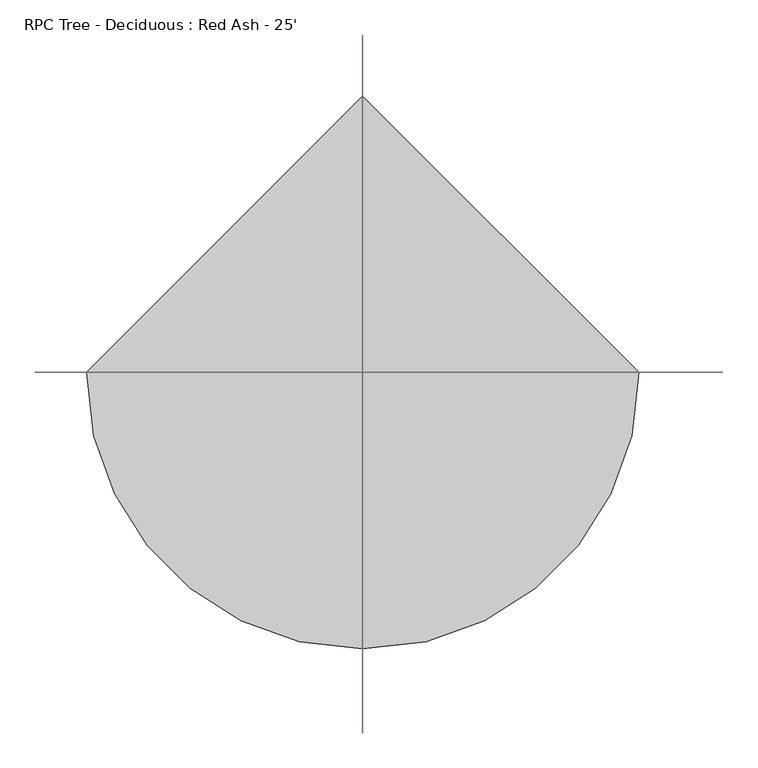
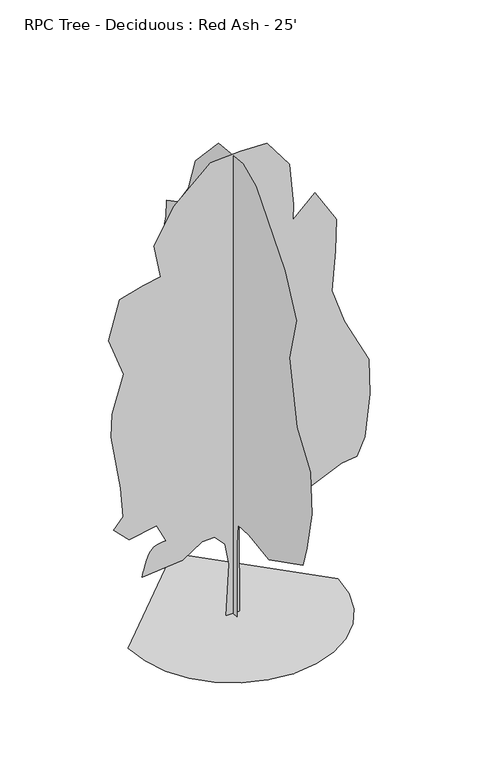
"""IFC4 building model written with IfcOpenShell, lengths in millimetres: geographic element geometry, RPC Tree - Deciduous : Red Ash - 25'."""

from ifc_helpers import new_model, si_unit, origin, place, context, project, spatial, triangles, source, transform, mapped, element, save


def rpc_tree_deciduous_red_ash_25_14781bec(model_context):
    return source(origin(), model_context, "Body", "Tessellation", [
        triangles([(-1644.9525009, 0.0, 6.19e-05), (-1601.4651844, -376.9143482, 6.19e-05), (-1477.6144592, -723.0498339, 6.19e-05), (-1283.3164352, -1028.4894024, 6.19e-05), (-1028.4894751, -1283.3165806, 6.19e-05), (-723.0496885, -1477.6140232, 6.19e-05), (-376.9141665, -1601.4651844, 6.19e-05), (7.19e-05, -1644.9525009, 6.19e-05), (376.9143846, -1601.4651844, 6.19e-05), (723.0499065, -1477.6143139, 6.19e-05), (1028.4894751, -1283.3164352, 6.19e-05), (1283.3168713, -1028.4894751, 6.19e-05), (1477.6141685, -723.0496159, 6.19e-05), (1601.4651844, -376.9140939, 6.19e-05), (1644.9525009, 0.0001438, 6.19e-05), (-0.0002157, 1644.9525009, 6.19e-05), (-1.07e-05, -102.8462569, 0.0), (2.5e-05, -101.2467179, 1194.554048), (3.23e-05, -129.8819613, 1537.8029366), (7e-07, -438.8253948, 1558.1655018), (-5.78e-05, -976.3912743, 1478.3068588), (-0.0001405, -1903.692667, 1948.6771305), (-0.0001413, -2011.2060173, 2298.095192), (-0.0001361, -2145.5975235, 2943.1744217), (-0.0001119, -2105.2803623, 3615.1319527), (-5.81e-05, -1740.3819958, 4141.0172951), (-5.5e-06, -1527.3986298, 5160.6350006), (-3.5e-06, -1715.5451397, 5886.3488434), (4.79e-05, -1406.4449661, 6531.4286545), (0.0001569, -626.9743755, 7458.7301926), (0.0001985, -273.2007115, 7618.1942963), (0.0002662, 394.4016166, 7552.8046829), (0.0003121, 1026.0418774, 6880.8468613), (0.0003149, 1214.190204, 6316.4022446), (0.0003323, 1496.411277, 5913.2274353), (0.0003598, 1805.5131947, 5751.9582092), (0.0003531, 1818.9521999, 5483.1746155), (0.0003523, 1899.587249, 5174.0742966), (0.0003275, 1765.1957428, 4811.2170845), (0.0003297, 1886.1480984, 4461.7991684), (0.0003279, 2007.1004539, 3977.9897461), (0.0003211, 1980.222298, 3843.5979492), (0.0002877, 1751.7567375, 3521.0580437), (0.0002729, 1737.3115437, 3077.5662186), (0.0002632, 1724.8782909, 2795.3439102), (0.0002542, 1738.3174416, 2445.9262848), (0.0002412, 1751.7568829, 1962.1167171), (0.0002172, 1563.6084835, 1814.2857697), (0.0001807, 1214.1907127, 1814.2857697), (0.0001827, 1375.4605202, 1317.0371967), (0.0001715, 1348.4951603, 1034.8845062), (0.0001516, 1103.0310734, 1227.8363914), (9.86e-05, 629.4626684, 1106.7075932), (9.8e-05, 551.7118183, 1357.0609165), (6.29e-05, 215.9127657, 1354.0025276), (5.03e-05, 130.8012366, 1228.3346169), (3.27e-05, 79.5493323, 818.2831198), (1.17e-05, 112.1660096, 1.28e-05), (-110.870867, 4.8e-06, 4.46e-05), (-66.7114758, -9.64e-05, 833.5016676), (-129.3072962, -0.000136, 1187.9435503), (-290.7878647, -0.00015, 1365.31768), (-483.6364677, -0.0001408, 1358.6964272), (-796.2678211, -0.000103, 1155.7673166), (-1427.9080456, -6.9e-05, 1102.0108595), (-1419.1706429, -7.35e-05, 1136.7646975), (-1409.8454853, -7.82e-05, 1172.6938271), (-1399.3449635, -8.32e-05, 1210.9736853), (-1387.0813225, -8.87e-05, 1252.7803631), (-1372.4668076, -9.49e-05, 1299.2876987), (-1354.9136639, -0.0001019, 1351.6733093), (-1333.8341366, -0.0001099, 1411.1111057), (-1307.2693336, -0.0001176, 1466.2392815), (-1274.3570984, -0.0001239, 1506.556588), (-1236.1555058, -0.0001289, 1534.5316246), (-1193.7220493, -0.0001329, 1552.6338627), (-1148.1152401, -0.0001362, 1563.3300121), (-1100.3923536, -0.000139, 1569.0895443), (-1051.6116829, -0.0001415, 1572.3809132), (-1199.4421944, -0.0001703, 1868.0423721), (-1629.4953049, -0.0001418, 1787.4073231), (-1871.3997253, -0.0001601, 2029.3124702), (-1723.5690685, -0.0001874, 2204.0214283), (-1763.886375, -0.0002433, 2687.8309959), (-1911.7170319, -0.0003442, 3588.2539421), (-1898.4807758, -0.0003892, 3961.1654823), (-1719.9175472, -0.0004688, 4563.3255295), (-1952.0346291, -0.0005347, 5200.9523071), (-1777.3253803, -0.000616, 5819.1535263), (-1414.4687496, -0.0006447, 5926.6667313), (-1138.413216, -0.0006626, 5975.3625961), (-1239.7599369, -0.0007228, 6517.9893585), (-930.6591093, -0.000802, 7068.9952606), (-352.7753057, -0.0008898, 7593.1219894), (117.5946844, -0.0009135, 7620.0), (534.2087442, -0.0009301, 7606.5601227), (883.626733, -0.0008893, 7136.1905777), (947.8720848, -0.00081, 6447.5180786), (938.6469212, -0.0007795, 6194.9695404), (1286.8011063, -0.0008333, 6517.9893585), (1622.7800171, -0.0007823, 5966.9840378), (1609.3410118, -0.0007196, 5446.5094116), (1549.4574577, -0.00064, 4800.6520317), (1743.7323727, -0.0005809, 4233.3331718), (2131.7640656, -0.0005067, 3469.1978371), (2144.1354034, -0.0004386, 2892.8094727), (2066.2719875, -0.0003531, 2204.021283), (1945.319632, -0.0003141, 1921.7989746), (1703.4147755, -0.0003004, 1894.9206734), (1233.0446491, -0.0002542, 1679.8941181), (816.4305439, -0.0002007, 1384.2328045), (257.4765441, -0.0002049, 1624.5688614), (93.0508701, -0.0001766, 1447.6347485), (104.1552431, -4.6e-06, 3.52e-05)], [[15, 16, 1], [14, 15, 1], [14, 1, 2], [13, 14, 2], [13, 2, 3], [13, 3, 4], [12, 13, 4], [11, 12, 4], [11, 4, 5], [11, 5, 6], [11, 6, 7], [11, 7, 8], [11, 8, 9], [11, 9, 10], [50, 51, 52], [57, 58, 17], [57, 17, 18], [56, 57, 18], [56, 18, 19], [55, 56, 19], [49, 50, 52], [52, 53, 54], [49, 52, 54], [35, 36, 37], [46, 47, 48], [46, 48, 49], [21, 22, 23], [20, 21, 23], [20, 23, 24], [20, 24, 25], [20, 25, 26], [19, 20, 26], [19, 26, 27], [45, 46, 49], [31, 32, 33], [30, 31, 33], [29, 30, 33], [29, 33, 34], [28, 29, 34], [27, 28, 34], [19, 27, 34], [19, 34, 35], [19, 35, 37], [19, 37, 38], [19, 38, 39], [19, 39, 40], [19, 40, 41], [19, 41, 42], [19, 42, 43], [19, 43, 44], [19, 44, 45], [19, 45, 49], [19, 49, 54], [55, 19, 54], [64, 65, 66], [64, 66, 67], [64, 67, 68], [99, 100, 101], [64, 68, 69], [64, 69, 70], [64, 70, 71], [114, 59, 60], [113, 114, 60], [113, 60, 61], [113, 61, 62], [64, 71, 72], [64, 72, 73], [64, 73, 74], [64, 74, 75], [64, 75, 76], [64, 76, 77], [64, 77, 78], [64, 78, 79], [63, 64, 79], [81, 82, 83], [80, 81, 83], [99, 101, 102], [107, 108, 109], [110, 111, 112], [88, 89, 90], [87, 88, 90], [87, 90, 91], [80, 83, 84], [95, 96, 97], [95, 97, 98], [94, 95, 98], [93, 94, 98], [92, 93, 98], [91, 92, 98], [91, 98, 99], [87, 91, 99], [87, 99, 102], [87, 102, 103], [87, 103, 104], [86, 87, 104], [85, 86, 104], [84, 85, 104], [80, 84, 104], [80, 104, 105], [80, 105, 106], [80, 106, 107], [80, 107, 109], [80, 109, 110], [80, 110, 112], [79, 80, 112], [63, 79, 112], [62, 63, 112], [113, 62, 112]], closed=False),
    ])


if __name__ == "__main__":
    model = new_model("IFC4")
    model_context = context("Model", 3, world=origin())
    ifc_project = project(units=[si_unit("LENGTHUNIT", "METRE", prefix="MILLI")], contexts=[model_context])
    site = spatial("IfcSite", under=ifc_project)
    building = spatial("IfcBuilding", under=site)
    placement = place(None, origin())
    rpc_tree_deciduous_red_ash_25_shape = rpc_tree_deciduous_red_ash_25_14781bec(model_context)
    element("IfcGeographicElement", 1, ObjectType="RPC Tree - Deciduous : Red Ash - 25'", at=placement, inside=building, context=model_context, shape_type="MappedRepresentation", body=[
        mapped(rpc_tree_deciduous_red_ash_25_shape, transform((0.0, 0.0, 0.0), x_axis=(1.0, 0.0, 0.0), y_axis=(0.0, 1.0, 0.0), z_axis=(0.0, 0.0, 1.0))),
    ])
    save(model, "model.ifc")
